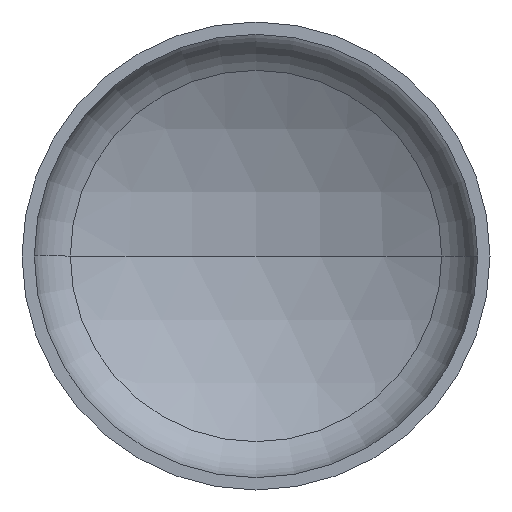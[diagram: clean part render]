
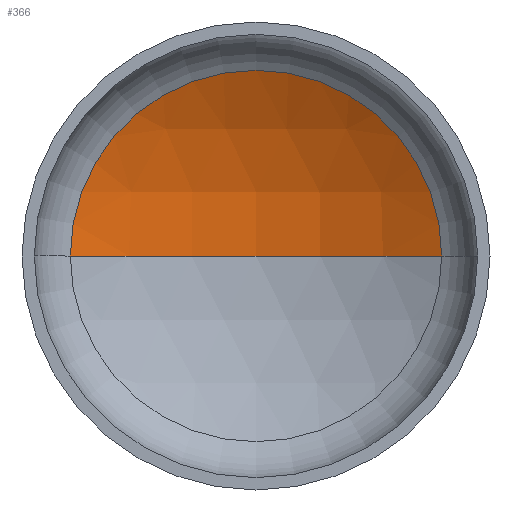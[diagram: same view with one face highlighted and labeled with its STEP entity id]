
A CAD part, front view. The second image highlights one B-rep face of the part: STEP entity #366.
In plain terms, the highlighted spherical face has radius 1520 mm.
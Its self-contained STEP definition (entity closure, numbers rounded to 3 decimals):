
#4 = DIRECTION ( 'NONE',  ( 1., 0., 0. ) ) ;
#8 = DIRECTION ( 'NONE',  ( 0., 0., -1. ) ) ;
#10 = CARTESIAN_POINT ( 'NONE',  ( 0., -918.082, 0. ) ) ;
#13 = VERTEX_POINT ( 'NONE', #274 ) ;
#19 = EDGE_LOOP ( 'NONE', ( #37, #31, #127 ) ) ;
#23 = AXIS2_PLACEMENT_3D ( 'NONE', #256, #280, #140 ) ;
#24 = AXIS2_PLACEMENT_3D ( 'NONE', #10, #8, #309 ) ;
#26 = AXIS2_PLACEMENT_3D ( 'NONE', #362, #216, #4 ) ;
#31 = ORIENTED_EDGE ( 'NONE', *, *, #88, .T. ) ;
#37 = ORIENTED_EDGE ( 'NONE', *, *, #90, .F. ) ;
#54 = VERTEX_POINT ( 'NONE', #281 ) ;
#85 = EDGE_CURVE ( 'NONE', #125, #13, #250, .T. ) ;
#88 = EDGE_CURVE ( 'NONE', #54, #125, #95, .T. ) ;
#90 = EDGE_CURVE ( 'NONE', #54, #13, #372, .T. ) ;
#95 = CIRCLE ( 'NONE', #24, 1520. ) ;
#125 = VERTEX_POINT ( 'NONE', #165 ) ;
#127 = ORIENTED_EDGE ( 'NONE', *, *, #85, .T. ) ;
#140 = DIRECTION ( 'NONE',  ( 1., 0., 0. ) ) ;
#154 = CARTESIAN_POINT ( 'NONE',  ( 0., -918.082, 0. ) ) ;
#165 = CARTESIAN_POINT ( 'NONE',  ( 753.821, 401.824, 0. ) ) ;
#171 = DIRECTION ( 'NONE',  ( 0., 0., -1. ) ) ;
#174 = DIRECTION ( 'NONE',  ( -1., 0., 0. ) ) ;
#194 = FACE_OUTER_BOUND ( 'NONE', #19, .T. ) ;
#216 = DIRECTION ( 'NONE',  ( 0., -1., 0. ) ) ;
#250 = CIRCLE ( 'NONE', #26, 753.821 ) ;
#256 = CARTESIAN_POINT ( 'NONE',  ( 0., -918.082, 0. ) ) ;
#274 = CARTESIAN_POINT ( 'NONE',  ( -753.821, 401.824, 0. ) ) ;
#280 = DIRECTION ( 'NONE',  ( 0., 0., 1. ) ) ;
#281 = CARTESIAN_POINT ( 'NONE',  ( 0., 601.918, 0. ) ) ;
#309 = DIRECTION ( 'NONE',  ( -1., 0., 0. ) ) ;
#362 = CARTESIAN_POINT ( 'NONE',  ( 0., 401.824, 0. ) ) ;
#366 = ADVANCED_FACE ( 'NONE', ( #194 ), #393, .F. ) ;
#372 = CIRCLE ( 'NONE', #23, 1520. ) ;
#390 = AXIS2_PLACEMENT_3D ( 'NONE', #154, #171, #174 ) ;
#393 = SPHERICAL_SURFACE ( 'NONE', #390, 1520. ) ;
